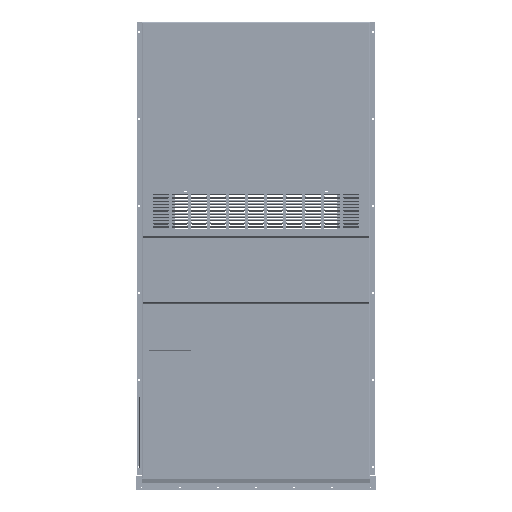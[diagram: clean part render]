
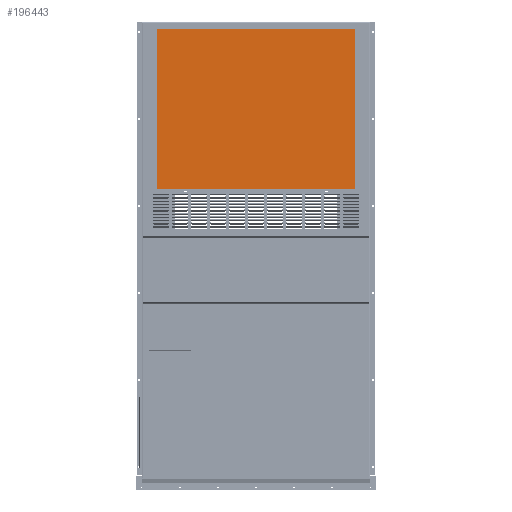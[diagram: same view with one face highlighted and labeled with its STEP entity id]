
A CAD part, left-side view. The second image highlights one B-rep face of the part: STEP entity #196443.
In plain terms, the highlighted planar face has unit normal (-1, 0, 0) as drawn and (0, 0, 1) by its records, which use the part's own axes.
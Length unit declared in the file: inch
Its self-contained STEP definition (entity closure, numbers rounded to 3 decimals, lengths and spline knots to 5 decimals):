
#7486 = EDGE_CURVE ( 'NONE', #161963, #181755, #57743, .T. ) ;
#25363 = CARTESIAN_POINT ( 'NONE',  ( 18.27786, -12.05233, 0.028 ) ) ;
#25371 = CARTESIAN_POINT ( 'NONE',  ( -17.97214, -12.05233, 0.028 ) ) ;
#29357 = DIRECTION ( 'NONE',  ( 1., 0., 0. ) ) ;
#30304 = VERTEX_POINT ( 'NONE', #134413 ) ;
#30717 = VECTOR ( 'NONE', #41965, 39.37008 ) ;
#41965 = DIRECTION ( 'NONE',  ( 0., -1., 0. ) ) ;
#48667 = VECTOR ( 'NONE', #204064, 39.37008 ) ;
#52717 = CARTESIAN_POINT ( 'NONE',  ( 18.27786, -12.05233, 0.028 ) ) ;
#53468 = ORIENTED_EDGE ( 'NONE', *, *, #141580, .T. ) ;
#57743 = LINE ( 'NONE', #93935, #178698 ) ;
#57978 = ORIENTED_EDGE ( 'NONE', *, *, #102613, .T. ) ;
#60518 = PLANE ( 'NONE',  #197766 ) ;
#63993 = ORIENTED_EDGE ( 'NONE', *, *, #7486, .T. ) ;
#75582 = VECTOR ( 'NONE', #102527, 39.37008 ) ;
#84045 = CARTESIAN_POINT ( 'NONE',  ( -17.97214, 17.39802, 0.028 ) ) ;
#92642 = CARTESIAN_POINT ( 'NONE',  ( 0., 0., 0.028 ) ) ;
#93935 = CARTESIAN_POINT ( 'NONE',  ( 18.27786, -12.05233, 0.028 ) ) ;
#94715 = VERTEX_POINT ( 'NONE', #84045 ) ;
#102527 = DIRECTION ( 'NONE',  ( 0., 1., 0. ) ) ;
#102613 = EDGE_CURVE ( 'NONE', #181755, #30304, #112201, .T. ) ;
#104268 = LINE ( 'NONE', #25371, #30717 ) ;
#108270 = FACE_OUTER_BOUND ( 'NONE', #159324, .T. ) ;
#112201 = LINE ( 'NONE', #52717, #75582 ) ;
#134413 = CARTESIAN_POINT ( 'NONE',  ( 18.27786, 17.39802, 0.028 ) ) ;
#134519 = CARTESIAN_POINT ( 'NONE',  ( -17.97214, -12.05233, 0.028 ) ) ;
#136992 = EDGE_CURVE ( 'NONE', #94715, #161963, #104268, .T. ) ;
#140608 = CARTESIAN_POINT ( 'NONE',  ( 18.27786, 17.39802, 0.028 ) ) ;
#141580 = EDGE_CURVE ( 'NONE', #30304, #94715, #170802, .T. ) ;
#159324 = EDGE_LOOP ( 'NONE', ( #57978, #53468, #193509, #63993 ) ) ;
#161963 = VERTEX_POINT ( 'NONE', #134519 ) ;
#170802 = LINE ( 'NONE', #140608, #48667 ) ;
#178698 = VECTOR ( 'NONE', #188699, 39.37008 ) ;
#181755 = VERTEX_POINT ( 'NONE', #25363 ) ;
#188427 = DIRECTION ( 'NONE',  ( 0., 0., 1. ) ) ;
#188699 = DIRECTION ( 'NONE',  ( 1., 0., 0. ) ) ;
#193509 = ORIENTED_EDGE ( 'NONE', *, *, #136992, .T. ) ;
#196443 = ADVANCED_FACE ( 'NONE', ( #108270 ), #60518, .T. ) ;
#197766 = AXIS2_PLACEMENT_3D ( 'NONE', #92642, #188427, #29357 ) ;
#204064 = DIRECTION ( 'NONE',  ( -1., 0., 0. ) ) ;
